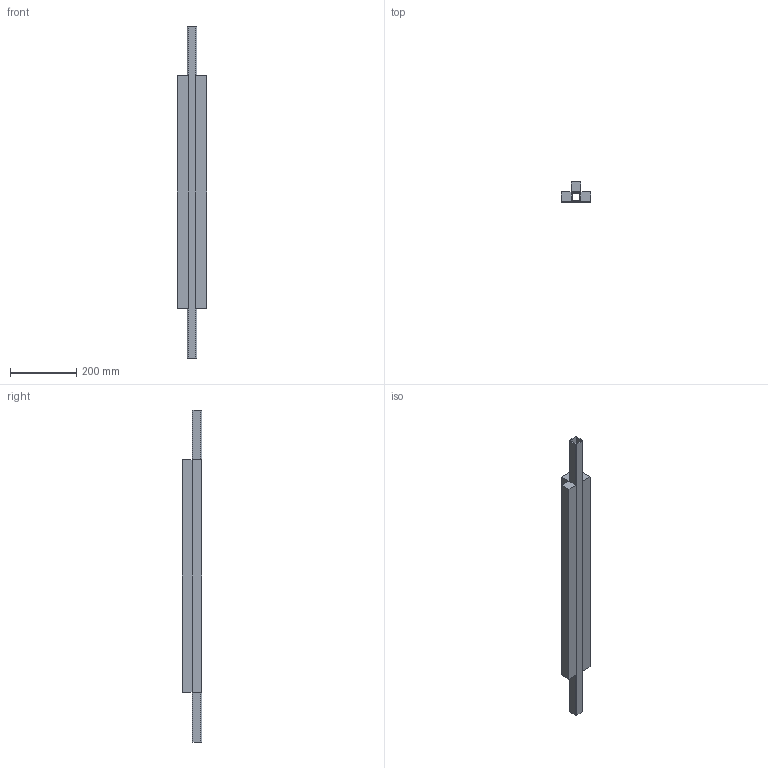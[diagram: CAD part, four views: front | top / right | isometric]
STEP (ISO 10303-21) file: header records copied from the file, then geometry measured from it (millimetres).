
FILE_DESCRIPTION (( 'STEP AP214' ), '1' );
FILE_NAME ('0005480_0_00.step', '2018-07-12T08:40:12', ( '' ), ( '' ), 'SwSTEP 2.0', 'SolidWorks 2018', '' );
FILE_SCHEMA (( 'AUTOMOTIVE_DESIGN' ));
Length unit declared in the file: millimetre
Products named in the file (3): 0005480_0_00; 0005480_0_01_3 lame L=700; 0005480_0_02_3 lame L=700
Assembly tree (2 placements, depth 2):
  0005480_0_00
    0005480_0_01_3 lame L=700
    0005480_0_02_3 lame L=700
Bounding box: 90 x 60 x 1000 mm (x, y, z)
Volume: 4423364.6 mm3; surface area: 947384.5 mm2
Topology: 4 solids, 4 shells, 64 faces, 168 edges, 112 vertices
Faces by surface type: plane 48, cylinder 16
Entity records: 2804 total; most frequent: CARTESIAN_POINT 349, DIRECTION 338, ORIENTED_EDGE 336, EDGE_CURVE 168, VECTOR 136, LINE 136, VERTEX_POINT 112, AXIS2_PLACEMENT_3D 101
